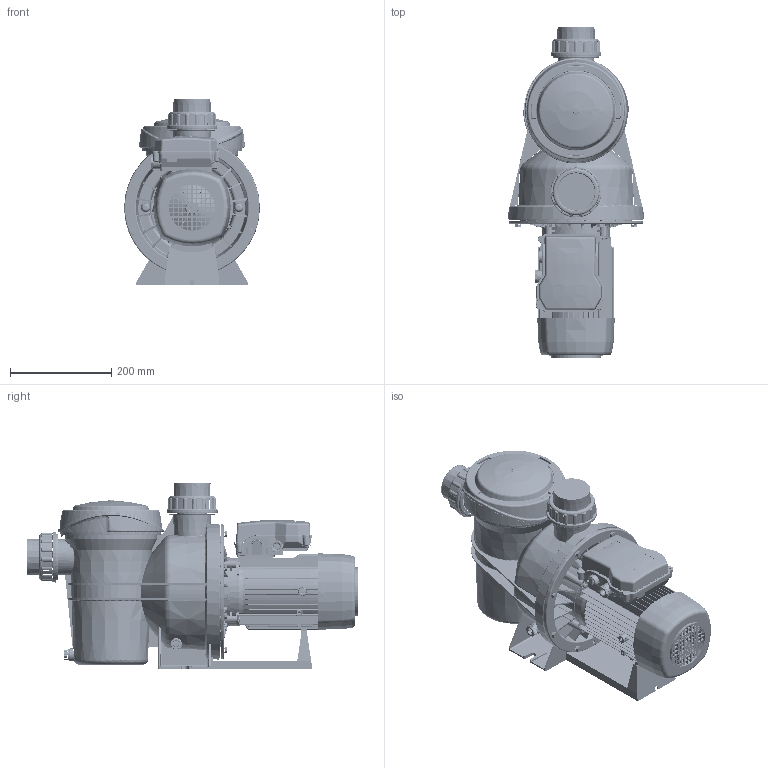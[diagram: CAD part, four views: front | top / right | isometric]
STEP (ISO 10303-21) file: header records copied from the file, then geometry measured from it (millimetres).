
FILE_DESCRIPTION((''),'2;1');
FILE_NAME('SILEN_S2','2019-09-27T',('usuari'),(''),'PRO/ENGINEER BY PARAMETRIC TECHNOLOGY CORPORATION, 2011490','PRO/ENGINEER BY PARAMETRIC TECHNOLOGY CORPORATION, 2011490','');
FILE_SCHEMA(('CONFIG_CONTROL_DESIGN'));
Products named in the file (1): SILEN_S2
Bounding box: 268.5 x 655.8 x 368 mm (x, y, z)
Surface area: 1890193.9 mm2
Topology: 1 solids, 629 shells, 4766 faces, 23502 edges, 18801 vertices
Faces by surface type: plane 2932, cylinder 815, cone 446, torus 319, bspline 225, sphere 29
Entity records: 251054 total; most frequent: CARTESIAN_POINT 83047, ORIENTED_EDGE 30306, DIRECTION 29791, EDGE_CURVE 23484, VERTEX_POINT 18801, VECTOR 14017, LINE 14017, AXIS2_PLACEMENT_3D 7887
